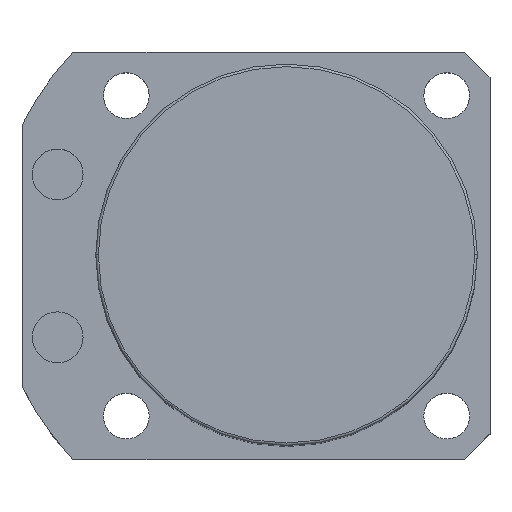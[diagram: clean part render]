
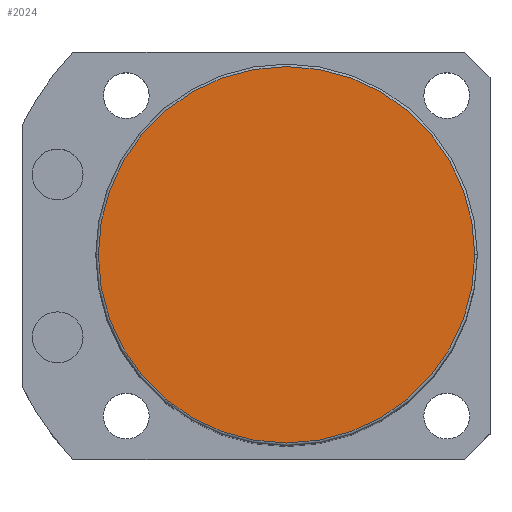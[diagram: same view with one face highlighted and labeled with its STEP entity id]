
A CAD part, top view. The second image highlights one B-rep face of the part: STEP entity #2024.
In plain terms, the highlighted planar face has unit normal (0, 0, 1).
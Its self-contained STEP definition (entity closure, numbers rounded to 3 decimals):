
#301 = DIRECTION ( 'NONE',  ( 0., 0., 1. ) ) ;
#351 = DIRECTION ( 'NONE',  ( 1., 0., 0. ) ) ;
#363 = DIRECTION ( 'NONE',  ( 0., 0., 1. ) ) ;
#386 = PLANE ( 'NONE',  #878 ) ;
#443 = CIRCLE ( 'NONE', #858, 37. ) ;
#477 = FACE_OUTER_BOUND ( 'NONE', #678, .T. ) ;
#661 = VERTEX_POINT ( 'NONE', #1405 ) ;
#678 = EDGE_LOOP ( 'NONE', ( #1982, #2096 ) ) ;
#734 = CARTESIAN_POINT ( 'NONE',  ( 0., 0., 135.5 ) ) ;
#802 = EDGE_CURVE ( 'NONE', #661, #2112, #443, .T. ) ;
#821 = CIRCLE ( 'NONE', #1923, 37. ) ;
#858 = AXIS2_PLACEMENT_3D ( 'NONE', #1504, #301, #1273 ) ;
#878 = AXIS2_PLACEMENT_3D ( 'NONE', #2178, #363, #1167 ) ;
#1167 = DIRECTION ( 'NONE',  ( 1., 0., 0. ) ) ;
#1273 = DIRECTION ( 'NONE',  ( 1., 0., 0. ) ) ;
#1396 = CARTESIAN_POINT ( 'NONE',  ( -37., 0., 135.5 ) ) ;
#1405 = CARTESIAN_POINT ( 'NONE',  ( 37., 0., 135.5 ) ) ;
#1415 = EDGE_CURVE ( 'NONE', #2112, #661, #821, .T. ) ;
#1504 = CARTESIAN_POINT ( 'NONE',  ( 0., 0., 135.5 ) ) ;
#1725 = DIRECTION ( 'NONE',  ( 0., 0., 1. ) ) ;
#1923 = AXIS2_PLACEMENT_3D ( 'NONE', #734, #1725, #351 ) ;
#1982 = ORIENTED_EDGE ( 'NONE', *, *, #802, .T. ) ;
#2024 = ADVANCED_FACE ( 'NONE', ( #477 ), #386, .T. ) ;
#2096 = ORIENTED_EDGE ( 'NONE', *, *, #1415, .T. ) ;
#2112 = VERTEX_POINT ( 'NONE', #1396 ) ;
#2178 = CARTESIAN_POINT ( 'NONE',  ( 0., 0., 135.5 ) ) ;
